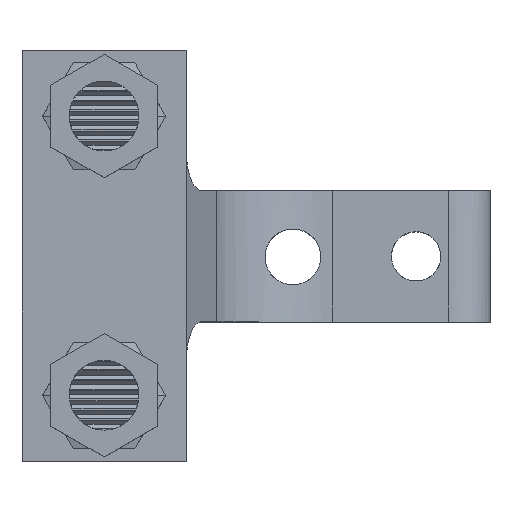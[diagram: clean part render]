
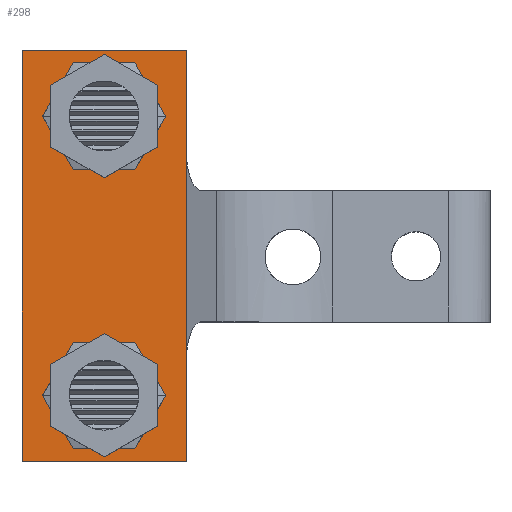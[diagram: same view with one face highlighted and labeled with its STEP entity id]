
A CAD part, top view. The second image highlights one B-rep face of the part: STEP entity #298.
In plain terms, the highlighted planar face has unit normal (0, 0, 1).
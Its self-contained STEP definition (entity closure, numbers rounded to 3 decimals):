
#298=ADVANCED_FACE('PartBody',(#706,#707,#708),#709,.T.);
#706=FACE_OUTER_BOUND('',#1254,.T.);
#707=FACE_BOUND('',#1255,.T.);
#708=FACE_BOUND('',#1256,.T.);
#709=PLANE('',#1257);
#1254=EDGE_LOOP('',(#2002,#2003,#2004,#2005));
#1255=EDGE_LOOP('',(#2006,#2007,#2008));
#1256=EDGE_LOOP('',(#2009,#2010,#2011));
#1257=AXIS2_PLACEMENT_3D('',#2012,#2013,#2014);
#2002=ORIENTED_EDGE('',*,*,#3365,.F.);
#2003=ORIENTED_EDGE('',*,*,#3286,.T.);
#2004=ORIENTED_EDGE('',*,*,#3288,.T.);
#2005=ORIENTED_EDGE('',*,*,#3361,.F.);
#2006=ORIENTED_EDGE('',*,*,#3230,.F.);
#2007=ORIENTED_EDGE('',*,*,#3229,.F.);
#2008=ORIENTED_EDGE('',*,*,#3370,.F.);
#2009=ORIENTED_EDGE('',*,*,#3275,.F.);
#2010=ORIENTED_EDGE('',*,*,#3274,.F.);
#2011=ORIENTED_EDGE('',*,*,#3281,.F.);
#2012=CARTESIAN_POINT('',(-18.0,0.0,45.0));
#2013=DIRECTION('',(0.0,0.0,1.0));
#2014=DIRECTION('',(1.0,0.0,0.0));
#3229=EDGE_CURVE('',#3850,#3852,#3853,.T.);
#3230=EDGE_CURVE('',#3852,#3844,#3854,.T.);
#3274=EDGE_CURVE('',#3931,#3933,#3934,.T.);
#3275=EDGE_CURVE('',#3933,#3925,#3935,.T.);
#3281=EDGE_CURVE('',#3925,#3931,#3942,.T.);
#3286=EDGE_CURVE('',#3945,#3949,#3951,.T.);
#3288=EDGE_CURVE('',#3949,#3953,#3954,.T.);
#3361=EDGE_CURVE('',#4055,#3953,#4057,.T.);
#3365=EDGE_CURVE('',#3945,#4055,#4061,.T.);
#3370=EDGE_CURVE('',#3844,#3850,#4066,.T.);
#3844=VERTEX_POINT('',#4760);
#3850=VERTEX_POINT('',#4787);
#3852=VERTEX_POINT('',#4790);
#3853=(B_SPLINE_CURVE(2,(#4792,#4793,#4794),.UNSPECIFIED.,.F.,.F.)B_SPLINE_CURVE_WITH_KNOTS((3,3),(5.783,6.283),.UNSPECIFIED.)RATIONAL_B_SPLINE_CURVE((1.0,0.969,1.0))BOUNDED_CURVE()REPRESENTATION_ITEM('')GEOMETRIC_REPRESENTATION_ITEM()CURVE());
#3854=(B_SPLINE_CURVE(2,(#4802,#4803,#4804,#4805,#4806),.UNSPECIFIED.,.F.,.F.)B_SPLINE_CURVE_WITH_KNOTS((3,2,3),(0.0,1.321,2.642),.UNSPECIFIED.)RATIONAL_B_SPLINE_CURVE((1.0,0.79,1.0,0.79,1.0))BOUNDED_CURVE()REPRESENTATION_ITEM('')GEOMETRIC_REPRESENTATION_ITEM()CURVE());
#3925=VERTEX_POINT('',#5101);
#3931=VERTEX_POINT('',#5128);
#3933=VERTEX_POINT('',#5131);
#3934=(B_SPLINE_CURVE(2,(#5133,#5134,#5135),.UNSPECIFIED.,.F.,.F.)B_SPLINE_CURVE_WITH_KNOTS((3,3),(0.0,1.7),.UNSPECIFIED.)RATIONAL_B_SPLINE_CURVE((1.0,0.969,1.0))BOUNDED_CURVE()REPRESENTATION_ITEM('')GEOMETRIC_REPRESENTATION_ITEM()CURVE());
#3935=(B_SPLINE_CURVE(4,(#5143,#5144,#5145,#5146,#5147),.UNSPECIFIED.,.F.,.F.)B_SPLINE_CURVE_WITH_KNOTS((5,5),(1.7,10.681),.UNSPECIFIED.)RATIONAL_B_SPLINE_CURVE((1.0,0.79,0.749,0.79,1.0))BOUNDED_CURVE()REPRESENTATION_ITEM('')GEOMETRIC_REPRESENTATION_ITEM()CURVE());
#3942=(B_SPLINE_CURVE(4,(#5192,#5193,#5194,#5195,#5196),.UNSPECIFIED.,.F.,.F.)B_SPLINE_CURVE_WITH_KNOTS((5,5),(10.681,21.363),.UNSPECIFIED.)RATIONAL_B_SPLINE_CURVE((1.0,0.707,0.667,0.707,1.0))BOUNDED_CURVE()REPRESENTATION_ITEM('')GEOMETRIC_REPRESENTATION_ITEM()CURVE());
#3945=VERTEX_POINT('',#5205);
#3949=VERTEX_POINT('',#5211);
#3951=B_SPLINE_CURVE_WITH_KNOTS('',1,(#5214,#5215),.UNSPECIFIED.,.F.,.F.,(2,2),(0.,1.0),.UNSPECIFIED.);
#3953=VERTEX_POINT('',#5217);
#3954=B_SPLINE_CURVE_WITH_KNOTS('',1,(#5218,#5219),.UNSPECIFIED.,.F.,.F.,(2,2),(0.0,1.0),.UNSPECIFIED.);
#4055=VERTEX_POINT('',#5566);
#4057=B_SPLINE_CURVE_WITH_KNOTS('',1,(#5569,#5570),.UNSPECIFIED.,.F.,.F.,(2,2),(0.,1.0),.UNSPECIFIED.);
#4061=B_SPLINE_CURVE_WITH_KNOTS('',1,(#5576,#5577),.UNSPECIFIED.,.F.,.F.,(2,2),(0.0,1.0),.UNSPECIFIED.);
#4066=(B_SPLINE_CURVE(2,(#5594,#5595,#5596,#5597,#5598),.UNSPECIFIED.,.F.,.F.)B_SPLINE_CURVE_WITH_KNOTS((3,2,3),(2.642,4.212,5.783),.UNSPECIFIED.)RATIONAL_B_SPLINE_CURVE((1.0,0.707,1.0,0.707,1.0))BOUNDED_CURVE()REPRESENTATION_ITEM('')GEOMETRIC_REPRESENTATION_ITEM()CURVE());
#4760=CARTESIAN_POINT('',(-4.6,17.0,45.0));
#4787=CARTESIAN_POINT('',(-11.4,17.0,45.0));
#4790=CARTESIAN_POINT('',(-10.984,15.37,45.0));
#4792=CARTESIAN_POINT('',(-11.4,17.0,45.0));
#4793=CARTESIAN_POINT('',(-11.4,16.132,45.0));
#4794=CARTESIAN_POINT('',(-10.984,15.37,45.0));
#4802=CARTESIAN_POINT('',(-10.984,15.37,45.0));
#4803=CARTESIAN_POINT('',(-9.718,13.052,45.0));
#4804=CARTESIAN_POINT('',(-7.159,13.706,45.0));
#4805=CARTESIAN_POINT('',(-4.6,14.359,45.0));
#4806=CARTESIAN_POINT('',(-4.6,17.0,45.0));
#5101=CARTESIAN_POINT('',(-4.6,-17.0,45.0));
#5128=CARTESIAN_POINT('',(-11.4,-17.0,45.0));
#5131=CARTESIAN_POINT('',(-10.984,-18.63,45.0));
#5133=CARTESIAN_POINT('',(-11.4,-17.0,45.0));
#5134=CARTESIAN_POINT('',(-11.4,-17.868,45.0));
#5135=CARTESIAN_POINT('',(-10.984,-18.63,45.0));
#5143=CARTESIAN_POINT('',(-10.984,-18.63,45.0));
#5144=CARTESIAN_POINT('',(-9.718,-20.948,45.0));
#5145=CARTESIAN_POINT('',(-6.877,-21.397,45.0));
#5146=CARTESIAN_POINT('',(-4.6,-19.641,45.0));
#5147=CARTESIAN_POINT('',(-4.6,-17.0,45.0));
#5192=CARTESIAN_POINT('',(-4.6,-17.0,45.0));
#5193=CARTESIAN_POINT('',(-4.6,-13.6,45.0));
#5194=CARTESIAN_POINT('',(-8.0,-11.9,45.0));
#5195=CARTESIAN_POINT('',(-11.4,-13.6,45.0));
#5196=CARTESIAN_POINT('',(-11.4,-17.0,45.0));
#5205=CARTESIAN_POINT('',(-18.0,-25.0,45.0));
#5211=CARTESIAN_POINT('',(2.,-25.0,45.0));
#5214=CARTESIAN_POINT('',(-18.0,-25.0,45.0));
#5215=CARTESIAN_POINT('',(2.,-25.0,45.0));
#5217=CARTESIAN_POINT('',(2.,25.0,45.0));
#5218=CARTESIAN_POINT('',(2.,-25.0,45.0));
#5219=CARTESIAN_POINT('',(2.,25.0,45.0));
#5566=CARTESIAN_POINT('',(-18.0,25.0,45.0));
#5569=CARTESIAN_POINT('',(-18.0,25.0,45.0));
#5570=CARTESIAN_POINT('',(2.0,25.0,45.0));
#5576=CARTESIAN_POINT('',(-18.0,-25.0,45.0));
#5577=CARTESIAN_POINT('',(-18.0,25.0,45.0));
#5594=CARTESIAN_POINT('',(-4.6,17.0,45.0));
#5595=CARTESIAN_POINT('',(-4.6,20.4,45.0));
#5596=CARTESIAN_POINT('',(-8.0,20.4,45.0));
#5597=CARTESIAN_POINT('',(-11.4,20.4,45.0));
#5598=CARTESIAN_POINT('',(-11.4,17.0,45.0));
